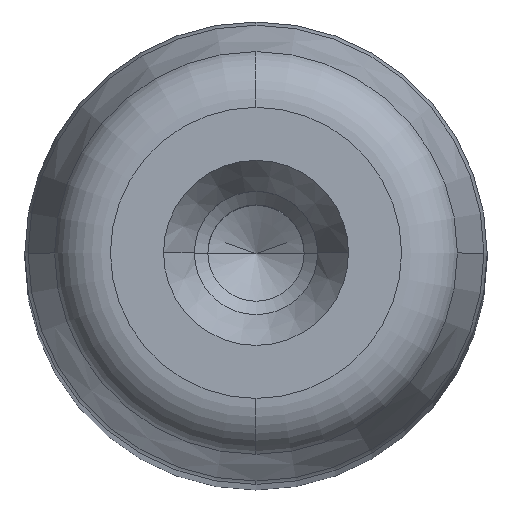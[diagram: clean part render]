
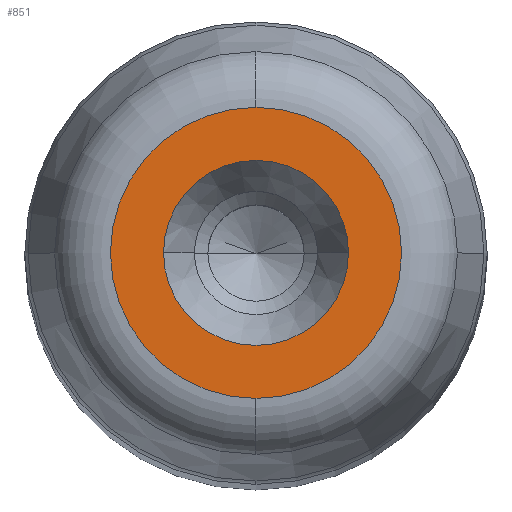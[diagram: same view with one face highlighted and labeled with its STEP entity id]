
A CAD part, top view. The second image highlights one B-rep face of the part: STEP entity #851.
In plain terms, the highlighted planar face has unit normal (0, 0, 1) as drawn and (0, 1, 0) by its records, which use the part's own axes.
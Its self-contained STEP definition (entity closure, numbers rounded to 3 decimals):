
#281=CARTESIAN_POINT('',(4.8,180.0,0.0));
#282=VERTEX_POINT('',#281);
#289=CARTESIAN_POINT('',(-4.8,180.0,0.));
#290=VERTEX_POINT('',#289);
#291=CARTESIAN_POINT('',(0.0,180.0,0.0));
#292=DIRECTION('',(0.0,1.0,0.0));
#293=DIRECTION('',(1.0,0.0,0.0));
#294=AXIS2_PLACEMENT_3D('',#291,#292,#293);
#295=CIRCLE('',#294,4.8);
#296=EDGE_CURVE('',#282,#290,#295,.T.);
#313=CARTESIAN_POINT('',(0.0,180.0,7.554));
#314=VERTEX_POINT('',#313);
#324=CARTESIAN_POINT('',(0.,180.0,-7.554));
#325=VERTEX_POINT('',#324);
#326=CARTESIAN_POINT('',(0.0,180.0,0.0));
#327=DIRECTION('',(0.0,1.0,0.0));
#328=DIRECTION('',(1.0,0.0,0.0));
#329=AXIS2_PLACEMENT_3D('',#326,#327,#328);
#330=CIRCLE('',#329,7.554);
#331=EDGE_CURVE('',#325,#314,#330,.T.);
#812=CARTESIAN_POINT('',(7.554,180.0,0.0));
#813=VERTEX_POINT('',#812);
#814=CARTESIAN_POINT('',(0.0,180.0,0.0));
#815=DIRECTION('',(0.0,1.0,0.0));
#816=DIRECTION('',(1.0,0.0,0.0));
#817=AXIS2_PLACEMENT_3D('',#814,#815,#816);
#818=CIRCLE('',#817,7.554);
#819=EDGE_CURVE('',#813,#325,#818,.T.);
#821=CARTESIAN_POINT('',(0.0,180.0,0.0));
#822=DIRECTION('',(0.0,1.0,0.0));
#823=DIRECTION('',(1.0,0.0,0.0));
#824=AXIS2_PLACEMENT_3D('',#821,#822,#823);
#825=CIRCLE('',#824,7.554);
#826=EDGE_CURVE('',#314,#813,#825,.T.);
#831=CARTESIAN_POINT('',(-8.31,180.0,-8.31));
#832=DIRECTION('',(0.0,1.0,0.0));
#833=DIRECTION('',(0.0,0.0,1.0));
#834=AXIS2_PLACEMENT_3D('',#831,#832,#833);
#835=PLANE('',#834);
#836=ORIENTED_EDGE('',*,*,#819,.T.);
#837=ORIENTED_EDGE('',*,*,#331,.T.);
#838=ORIENTED_EDGE('',*,*,#826,.T.);
#839=EDGE_LOOP('',(#836,#837,#838));
#840=FACE_OUTER_BOUND('',#839,.T.);
#841=ORIENTED_EDGE('',*,*,#296,.F.);
#842=CARTESIAN_POINT('',(0.0,180.0,0.0));
#843=DIRECTION('',(0.0,1.0,0.0));
#844=DIRECTION('',(1.0,0.0,0.0));
#845=AXIS2_PLACEMENT_3D('',#842,#843,#844);
#846=CIRCLE('',#845,4.8);
#847=EDGE_CURVE('',#290,#282,#846,.T.);
#848=ORIENTED_EDGE('',*,*,#847,.F.);
#849=EDGE_LOOP('',(#841,#848));
#850=FACE_BOUND('',#849,.T.);
#851=ADVANCED_FACE('',(#840,#850),#835,.T.);
